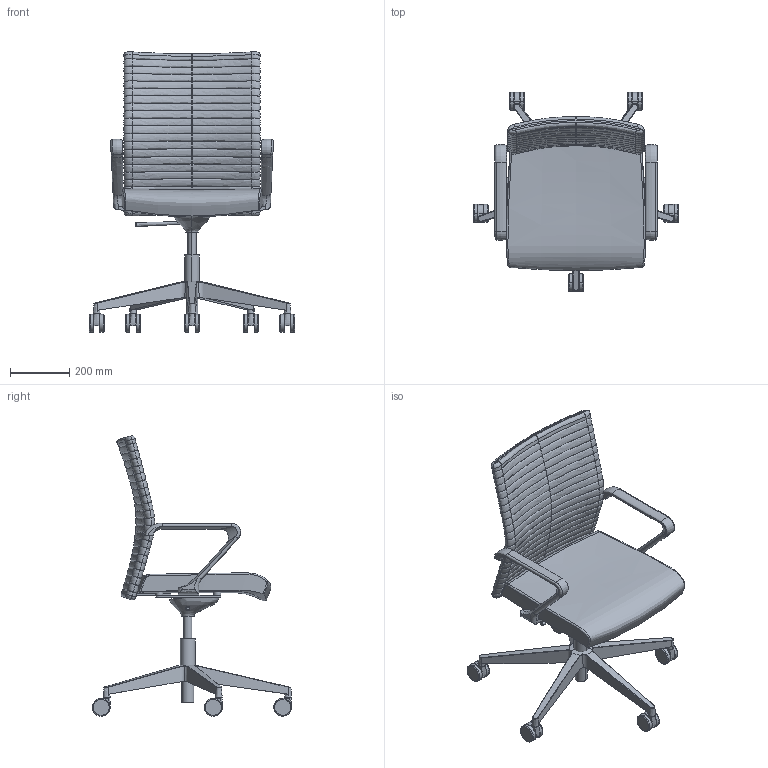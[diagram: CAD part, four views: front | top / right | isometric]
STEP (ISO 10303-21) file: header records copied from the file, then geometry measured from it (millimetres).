
FILE_DESCRIPTION(/* description */ (''),/* implementation_level */ '2;1');
FILE_NAME(/* name */ 'EL2361~1',/* time_stamp */ '2017-07-18T23:26:15+02:00',/* author */ (''),/* organization */ (''),/* preprocessor_version */ 'ST-DEVELOPER v15',/* originating_system */ '',/* authorisation */ '');
FILE_SCHEMA (('CONFIG_CONTROL_DESIGN'));
Length unit declared in the file: millimetre
Products named in the file (1): Document
Bounding box: 694.82 x 673.73 x 947.61 mm (x, y, z)
Volume: 12833995.4 mm3; surface area: 1723594.1 mm2
Topology: 4 solids, 34 shells, 496 faces, 1178 edges, 686 vertices
Faces by surface type: bspline 423, plane 73
Entity records: 39602 total; most frequent: CARTESIAN_POINT 32698, ORIENTED_EDGE 2077, EDGE_CURVE 1156, B_SPLINE_CURVE_WITH_KNOTS 820, VERTEX_POINT 680, ADVANCED_FACE 496, FACE_OUTER_BOUND 496, EDGE_LOOP 496
